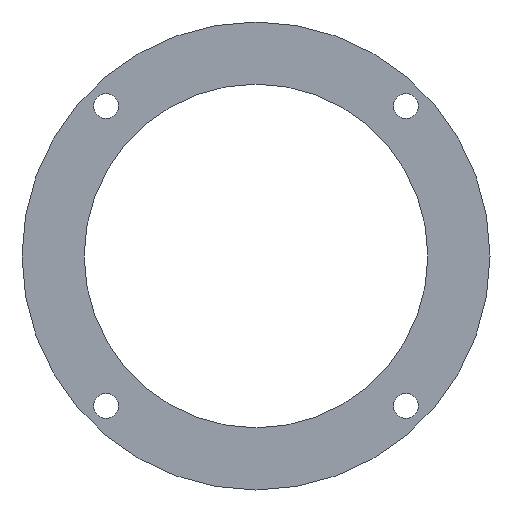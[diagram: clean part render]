
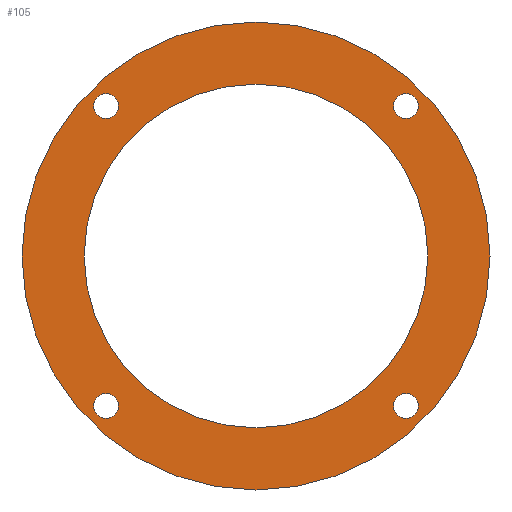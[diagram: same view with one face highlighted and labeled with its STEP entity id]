
A CAD part, front view. The second image highlights one B-rep face of the part: STEP entity #105.
In plain terms, the highlighted planar face has unit normal (0, -1, 0).
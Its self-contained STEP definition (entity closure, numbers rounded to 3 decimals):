
#22 = VERTEX_POINT('',#23);
#23 = CARTESIAN_POINT('',(202.,-14.,33.));
#32 = CYLINDRICAL_SURFACE('',#33,32.);
#33 = AXIS2_PLACEMENT_3D('',#34,#35,#36);
#34 = CARTESIAN_POINT('',(170.,-14.,33.));
#35 = DIRECTION('',(0.,-1.,0.));
#36 = DIRECTION('',(1.,0.,0.));
#79 = EDGE_CURVE('',#22,#22,#80,.T.);
#80 = SURFACE_CURVE('',#81,(#86,#93),.PCURVE_S1.);
#81 = CIRCLE('',#82,32.);
#82 = AXIS2_PLACEMENT_3D('',#83,#84,#85);
#83 = CARTESIAN_POINT('',(170.,-14.,33.));
#84 = DIRECTION('',(0.,-1.,0.));
#85 = DIRECTION('',(1.,0.,0.));
#86 = PCURVE('',#32,#87);
#87 = DEFINITIONAL_REPRESENTATION('',(#88),#92);
#88 = LINE('',#89,#90);
#89 = CARTESIAN_POINT('',(0.,0.));
#90 = VECTOR('',#91,1.);
#91 = DIRECTION('',(1.,0.));
#92 = ( GEOMETRIC_REPRESENTATION_CONTEXT(2) 
PARAMETRIC_REPRESENTATION_CONTEXT() REPRESENTATION_CONTEXT('2D SPACE',''
  ) );
#93 = PCURVE('',#94,#99);
#94 = PLANE('',#95);
#95 = AXIS2_PLACEMENT_3D('',#96,#97,#98);
#96 = CARTESIAN_POINT('',(170.,-14.,33.));
#97 = DIRECTION('',(-0.,-1.,-0.));
#98 = DIRECTION('',(0.,0.,-1.));
#99 = DEFINITIONAL_REPRESENTATION('',(#100),#104);
#100 = CIRCLE('',#101,32.);
#101 = AXIS2_PLACEMENT_2D('',#102,#103);
#102 = CARTESIAN_POINT('',(0.,0.));
#103 = DIRECTION('',(0.,1.));
#104 = ( GEOMETRIC_REPRESENTATION_CONTEXT(2) 
PARAMETRIC_REPRESENTATION_CONTEXT() REPRESENTATION_CONTEXT('2D SPACE',''
  ) );
#105 = ADVANCED_FACE('',(#106,#109,#140,#171,#202,#233),#94,.T.);
#106 = FACE_BOUND('',#107,.T.);
#107 = EDGE_LOOP('',(#108));
#108 = ORIENTED_EDGE('',*,*,#79,.T.);
#109 = FACE_BOUND('',#110,.T.);
#110 = EDGE_LOOP('',(#111));
#111 = ORIENTED_EDGE('',*,*,#112,.F.);
#112 = EDGE_CURVE('',#113,#113,#115,.T.);
#113 = VERTEX_POINT('',#114);
#114 = CARTESIAN_POINT('',(151.194,-14.,53.506));
#115 = SURFACE_CURVE('',#116,(#121,#128),.PCURVE_S1.);
#116 = CIRCLE('',#117,1.7);
#117 = AXIS2_PLACEMENT_3D('',#118,#119,#120);
#118 = CARTESIAN_POINT('',(149.494,-14.,53.506));
#119 = DIRECTION('',(0.,-1.,0.));
#120 = DIRECTION('',(1.,0.,0.));
#121 = PCURVE('',#94,#122);
#122 = DEFINITIONAL_REPRESENTATION('',(#123),#127);
#123 = CIRCLE('',#124,1.7);
#124 = AXIS2_PLACEMENT_2D('',#125,#126);
#125 = CARTESIAN_POINT('',(-20.506,-20.506));
#126 = DIRECTION('',(0.,1.));
#127 = ( GEOMETRIC_REPRESENTATION_CONTEXT(2) 
PARAMETRIC_REPRESENTATION_CONTEXT() REPRESENTATION_CONTEXT('2D SPACE',''
  ) );
#128 = PCURVE('',#129,#134);
#129 = CYLINDRICAL_SURFACE('',#130,1.7);
#130 = AXIS2_PLACEMENT_3D('',#131,#132,#133);
#131 = CARTESIAN_POINT('',(149.494,-15.,53.506));
#132 = DIRECTION('',(0.,-1.,0.));
#133 = DIRECTION('',(1.,0.,0.));
#134 = DEFINITIONAL_REPRESENTATION('',(#135),#139);
#135 = LINE('',#136,#137);
#136 = CARTESIAN_POINT('',(0.,-1.));
#137 = VECTOR('',#138,1.);
#138 = DIRECTION('',(1.,0.));
#139 = ( GEOMETRIC_REPRESENTATION_CONTEXT(2) 
PARAMETRIC_REPRESENTATION_CONTEXT() REPRESENTATION_CONTEXT('2D SPACE',''
  ) );
#140 = FACE_BOUND('',#141,.T.);
#141 = EDGE_LOOP('',(#142));
#142 = ORIENTED_EDGE('',*,*,#143,.F.);
#143 = EDGE_CURVE('',#144,#144,#146,.T.);
#144 = VERTEX_POINT('',#145);
#145 = CARTESIAN_POINT('',(151.194,-14.,12.494));
#146 = SURFACE_CURVE('',#147,(#152,#159),.PCURVE_S1.);
#147 = CIRCLE('',#148,1.7);
#148 = AXIS2_PLACEMENT_3D('',#149,#150,#151);
#149 = CARTESIAN_POINT('',(149.494,-14.,12.494));
#150 = DIRECTION('',(0.,-1.,0.));
#151 = DIRECTION('',(1.,0.,0.));
#152 = PCURVE('',#94,#153);
#153 = DEFINITIONAL_REPRESENTATION('',(#154),#158);
#154 = CIRCLE('',#155,1.7);
#155 = AXIS2_PLACEMENT_2D('',#156,#157);
#156 = CARTESIAN_POINT('',(20.506,-20.506));
#157 = DIRECTION('',(0.,1.));
#158 = ( GEOMETRIC_REPRESENTATION_CONTEXT(2) 
PARAMETRIC_REPRESENTATION_CONTEXT() REPRESENTATION_CONTEXT('2D SPACE',''
  ) );
#159 = PCURVE('',#160,#165);
#160 = CYLINDRICAL_SURFACE('',#161,1.7);
#161 = AXIS2_PLACEMENT_3D('',#162,#163,#164);
#162 = CARTESIAN_POINT('',(149.494,-15.,12.494));
#163 = DIRECTION('',(0.,-1.,0.));
#164 = DIRECTION('',(1.,0.,0.));
#165 = DEFINITIONAL_REPRESENTATION('',(#166),#170);
#166 = LINE('',#167,#168);
#167 = CARTESIAN_POINT('',(0.,-1.));
#168 = VECTOR('',#169,1.);
#169 = DIRECTION('',(1.,0.));
#170 = ( GEOMETRIC_REPRESENTATION_CONTEXT(2) 
PARAMETRIC_REPRESENTATION_CONTEXT() REPRESENTATION_CONTEXT('2D SPACE',''
  ) );
#171 = FACE_BOUND('',#172,.T.);
#172 = EDGE_LOOP('',(#173));
#173 = ORIENTED_EDGE('',*,*,#174,.F.);
#174 = EDGE_CURVE('',#175,#175,#177,.T.);
#175 = VERTEX_POINT('',#176);
#176 = CARTESIAN_POINT('',(192.206,-14.,53.506));
#177 = SURFACE_CURVE('',#178,(#183,#190),.PCURVE_S1.);
#178 = CIRCLE('',#179,1.7);
#179 = AXIS2_PLACEMENT_3D('',#180,#181,#182);
#180 = CARTESIAN_POINT('',(190.506,-14.,53.506));
#181 = DIRECTION('',(0.,-1.,0.));
#182 = DIRECTION('',(1.,0.,0.));
#183 = PCURVE('',#94,#184);
#184 = DEFINITIONAL_REPRESENTATION('',(#185),#189);
#185 = CIRCLE('',#186,1.7);
#186 = AXIS2_PLACEMENT_2D('',#187,#188);
#187 = CARTESIAN_POINT('',(-20.506,20.506));
#188 = DIRECTION('',(0.,1.));
#189 = ( GEOMETRIC_REPRESENTATION_CONTEXT(2) 
PARAMETRIC_REPRESENTATION_CONTEXT() REPRESENTATION_CONTEXT('2D SPACE',''
  ) );
#190 = PCURVE('',#191,#196);
#191 = CYLINDRICAL_SURFACE('',#192,1.7);
#192 = AXIS2_PLACEMENT_3D('',#193,#194,#195);
#193 = CARTESIAN_POINT('',(190.506,-15.,53.506));
#194 = DIRECTION('',(0.,-1.,0.));
#195 = DIRECTION('',(1.,0.,0.));
#196 = DEFINITIONAL_REPRESENTATION('',(#197),#201);
#197 = LINE('',#198,#199);
#198 = CARTESIAN_POINT('',(0.,-1.));
#199 = VECTOR('',#200,1.);
#200 = DIRECTION('',(1.,0.));
#201 = ( GEOMETRIC_REPRESENTATION_CONTEXT(2) 
PARAMETRIC_REPRESENTATION_CONTEXT() REPRESENTATION_CONTEXT('2D SPACE',''
  ) );
#202 = FACE_BOUND('',#203,.T.);
#203 = EDGE_LOOP('',(#204));
#204 = ORIENTED_EDGE('',*,*,#205,.F.);
#205 = EDGE_CURVE('',#206,#206,#208,.T.);
#206 = VERTEX_POINT('',#207);
#207 = CARTESIAN_POINT('',(193.5,-14.,33.));
#208 = SURFACE_CURVE('',#209,(#214,#221),.PCURVE_S1.);
#209 = CIRCLE('',#210,23.5);
#210 = AXIS2_PLACEMENT_3D('',#211,#212,#213);
#211 = CARTESIAN_POINT('',(170.,-14.,33.));
#212 = DIRECTION('',(0.,-1.,0.));
#213 = DIRECTION('',(1.,0.,0.));
#214 = PCURVE('',#94,#215);
#215 = DEFINITIONAL_REPRESENTATION('',(#216),#220);
#216 = CIRCLE('',#217,23.5);
#217 = AXIS2_PLACEMENT_2D('',#218,#219);
#218 = CARTESIAN_POINT('',(0.,0.));
#219 = DIRECTION('',(0.,1.));
#220 = ( GEOMETRIC_REPRESENTATION_CONTEXT(2) 
PARAMETRIC_REPRESENTATION_CONTEXT() REPRESENTATION_CONTEXT('2D SPACE',''
  ) );
#221 = PCURVE('',#222,#227);
#222 = CYLINDRICAL_SURFACE('',#223,23.5);
#223 = AXIS2_PLACEMENT_3D('',#224,#225,#226);
#224 = CARTESIAN_POINT('',(170.,-15.,33.));
#225 = DIRECTION('',(0.,-1.,0.));
#226 = DIRECTION('',(1.,0.,0.));
#227 = DEFINITIONAL_REPRESENTATION('',(#228),#232);
#228 = LINE('',#229,#230);
#229 = CARTESIAN_POINT('',(0.,-1.));
#230 = VECTOR('',#231,1.);
#231 = DIRECTION('',(1.,0.));
#232 = ( GEOMETRIC_REPRESENTATION_CONTEXT(2) 
PARAMETRIC_REPRESENTATION_CONTEXT() REPRESENTATION_CONTEXT('2D SPACE',''
  ) );
#233 = FACE_BOUND('',#234,.T.);
#234 = EDGE_LOOP('',(#235));
#235 = ORIENTED_EDGE('',*,*,#236,.F.);
#236 = EDGE_CURVE('',#237,#237,#239,.T.);
#237 = VERTEX_POINT('',#238);
#238 = CARTESIAN_POINT('',(192.206,-14.,12.494));
#239 = SURFACE_CURVE('',#240,(#245,#252),.PCURVE_S1.);
#240 = CIRCLE('',#241,1.7);
#241 = AXIS2_PLACEMENT_3D('',#242,#243,#244);
#242 = CARTESIAN_POINT('',(190.506,-14.,12.494));
#243 = DIRECTION('',(0.,-1.,0.));
#244 = DIRECTION('',(1.,0.,0.));
#245 = PCURVE('',#94,#246);
#246 = DEFINITIONAL_REPRESENTATION('',(#247),#251);
#247 = CIRCLE('',#248,1.7);
#248 = AXIS2_PLACEMENT_2D('',#249,#250);
#249 = CARTESIAN_POINT('',(20.506,20.506));
#250 = DIRECTION('',(0.,1.));
#251 = ( GEOMETRIC_REPRESENTATION_CONTEXT(2) 
PARAMETRIC_REPRESENTATION_CONTEXT() REPRESENTATION_CONTEXT('2D SPACE',''
  ) );
#252 = PCURVE('',#253,#258);
#253 = CYLINDRICAL_SURFACE('',#254,1.7);
#254 = AXIS2_PLACEMENT_3D('',#255,#256,#257);
#255 = CARTESIAN_POINT('',(190.506,-15.,12.494));
#256 = DIRECTION('',(0.,-1.,0.));
#257 = DIRECTION('',(1.,0.,0.));
#258 = DEFINITIONAL_REPRESENTATION('',(#259),#263);
#259 = LINE('',#260,#261);
#260 = CARTESIAN_POINT('',(0.,-1.));
#261 = VECTOR('',#262,1.);
#262 = DIRECTION('',(1.,0.));
#263 = ( GEOMETRIC_REPRESENTATION_CONTEXT(2) 
PARAMETRIC_REPRESENTATION_CONTEXT() REPRESENTATION_CONTEXT('2D SPACE',''
  ) );
